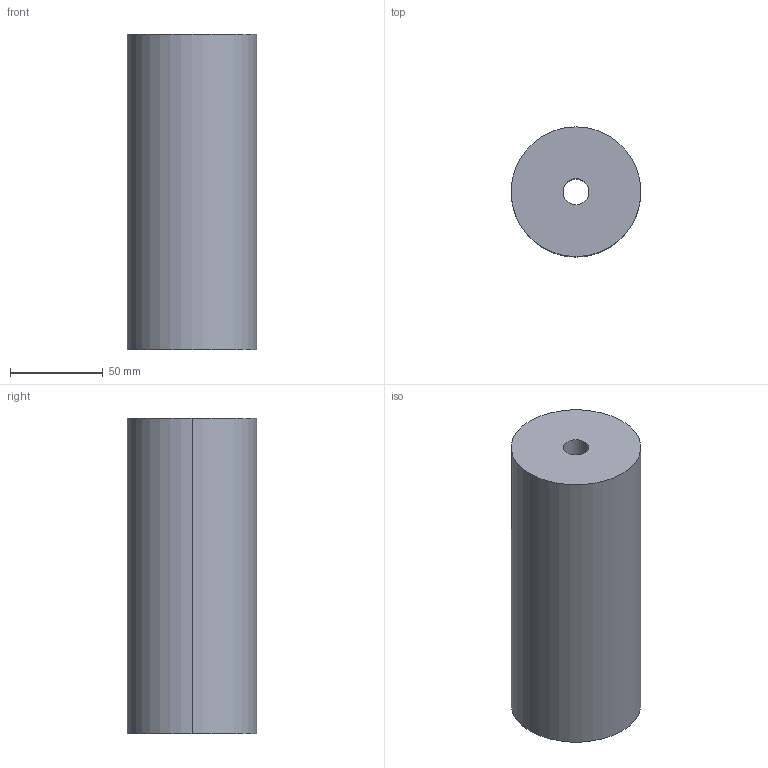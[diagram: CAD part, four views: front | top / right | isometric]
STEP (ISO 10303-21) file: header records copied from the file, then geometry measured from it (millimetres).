
FILE_DESCRIPTION(/* description */ (''),/* implementation_level */ '2;1');
FILE_NAME(/* name */ '3d_e70-170_03708_r00.stp',/* time_stamp */ '2011-01-10T14:15:49+09:00',/* author */ ('MISUMI'),/* organization */ (''),/* preprocessor_version */ 'ST-DEVELOPER v11',/* originating_system */ 'UGS - NX 5.0',/* authorisation */ '');
FILE_SCHEMA (('CONFIG_CONTROL_DESIGN'));
Length unit declared in the file: millimetre
Products named in the file (1): 3d_e70-170_03708_r00
Bounding box: 70 x 70 x 170 mm (x, y, z)
Volume: 628067.2 mm3; surface area: 52251 mm2
Topology: 1 solids, 1 shells, 6 faces, 12 edges, 8 vertices
Faces by surface type: cylinder 4, plane 2
Entity records: 254 total; most frequent: DIRECTION 34, CARTESIAN_POINT 27, ORIENTED_EDGE 24, AXIS2_PLACEMENT_3D 15, EDGE_CURVE 12, EDGE_LOOP 8, VERTEX_POINT 8, CIRCLE 8
